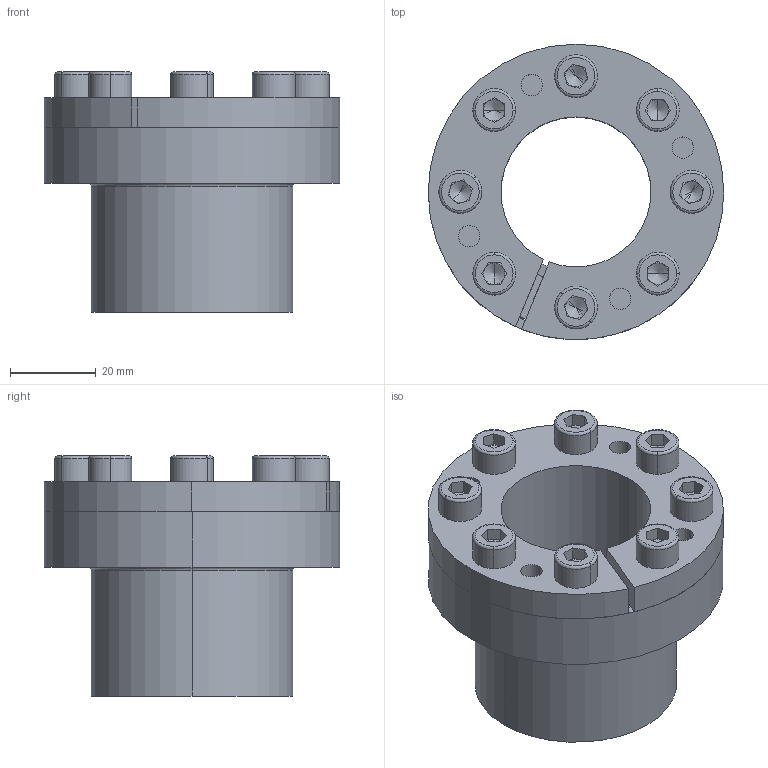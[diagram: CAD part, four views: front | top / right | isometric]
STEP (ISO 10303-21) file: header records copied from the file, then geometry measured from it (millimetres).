
FILE_DESCRIPTION (( 'STEP AP214' ), '1' );
FILE_NAME ('CONEX-B-35x47.step', '2019-09-18T08:51:52', ( '' ), ( '' ), 'SwSTEP 2.0', 'SolidWorks 2018', '' );
FILE_SCHEMA (( 'AUTOMOTIVE_DESIGN' ));
Length unit declared in the file: millimetre
Products named in the file (1): CONEX-B-35x47
Bounding box: 69 x 69 x 56.04 mm (x, y, z)
Volume: 70890 mm3; surface area: 45425.8 mm2
Topology: 11 solids, 11 shells, 296 faces, 682 edges, 408 vertices
Faces by surface type: plane 132, cylinder 88, torus 38, cone 38
Entity records: 11748 total; most frequent: DIRECTION 1578, CARTESIAN_POINT 1419, ORIENTED_EDGE 1332, EDGE_CURVE 666, AXIS2_PLACEMENT_3D 623, VERTEX_POINT 408, EDGE_LOOP 354, LINE 332
